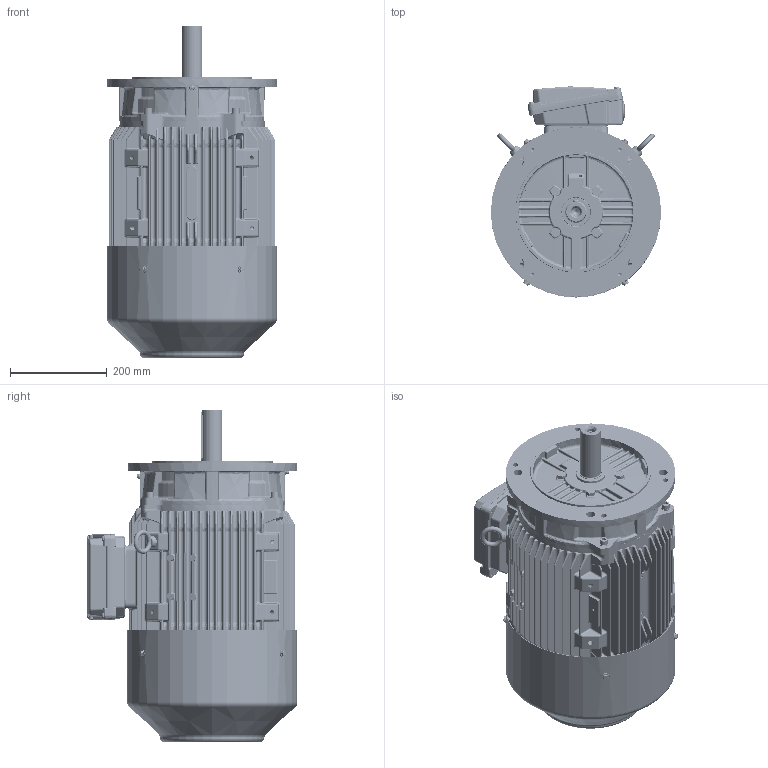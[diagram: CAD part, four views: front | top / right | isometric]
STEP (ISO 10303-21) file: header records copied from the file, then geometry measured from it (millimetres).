
FILE_DESCRIPTION (( 'STEP AP203' ), '1' );
FILE_NAME ('0216000483_RevA.STEP', '2023-04-27T06:41:03', ( '' ), ( '' ), 'SwSTEP 2.0', 'SolidWorks 2021', '' );
FILE_SCHEMA (( 'CONFIG_CONTROL_DESIGN' ));
Length unit declared in the file: inch
Products named in the file (1): 0216000483_RevA
Bounding box: 352 x 435.71 x 686 mm (x, y, z)
Volume: 10733988.7 mm3; surface area: 2906350.1 mm2
Topology: 54 solids, 54 shells, 10135 faces, 24556 edges, 14385 vertices
Faces by surface type: bspline 2693, cylinder 2640, plane 2024, torus 1060, cone 1009, sphere 709
Entity records: 384800 total; most frequent: CARTESIAN_POINT 170769, ORIENTED_EDGE 48350, DIRECTION 41466, EDGE_CURVE 24175, AXIS2_PLACEMENT_3D 17482, VERTEX_POINT 14297, EDGE_LOOP 10660, FACE_OUTER_BOUND 10135
